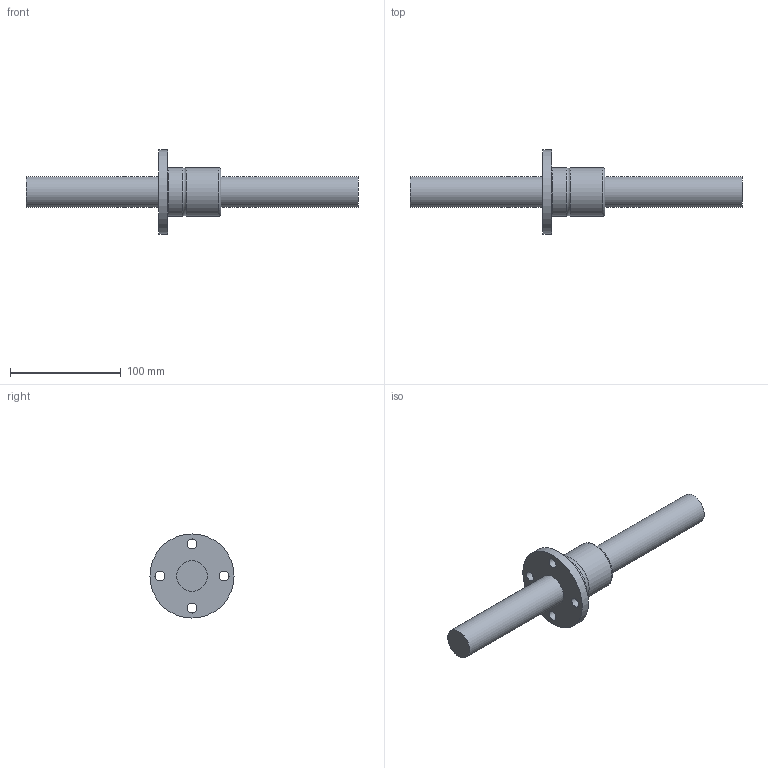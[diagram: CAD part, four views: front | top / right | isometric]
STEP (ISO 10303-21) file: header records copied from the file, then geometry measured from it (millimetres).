
FILE_DESCRIPTION((''),'2;1');
FILE_NAME('D:\製品 (図面)\カタログ用3D\ネジ関連\STEP形式\TMF-OH\TMF28-OH.stp','2010-06-02T15:14:50',('Tsuchiya'),(''),'Autodesk Inventor 10','Autodesk Inventor 10','');
FILE_SCHEMA(('AUTOMOTIVE_DESIGN { 1 0 10303 214 1 1 1 1 }'));
Length unit declared in the file: millimetre
Products named in the file (3): TMF28-OH; TMF28-OH1; TMF28-OH2
Assembly tree (2 placements, depth 2):
  TMF28-OH
    TMF28-OH1
    TMF28-OH2
Bounding box: 300 x 76 x 76 mm (x, y, z)
Volume: 257110.6 mm3; surface area: 49267.2 mm2
Topology: 2 solids, 2 shells, 18 faces, 40 edges, 27 vertices
Faces by surface type: cylinder 10, plane 5, bspline 2, torus 1
Full cylindrical faces by diameter (mm): 2.5 x1, 9 x4, 28 x2, 44 x2, 76 x1
Entity records: 714 total; most frequent: CARTESIAN_POINT 291, DIRECTION 82, ORIENTED_EDGE 44, EDGE_LOOP 44, AXIS2_PLACEMENT_3D 41, FACE_BOUND 26, VERTEX_POINT 22, EDGE_CURVE 22
